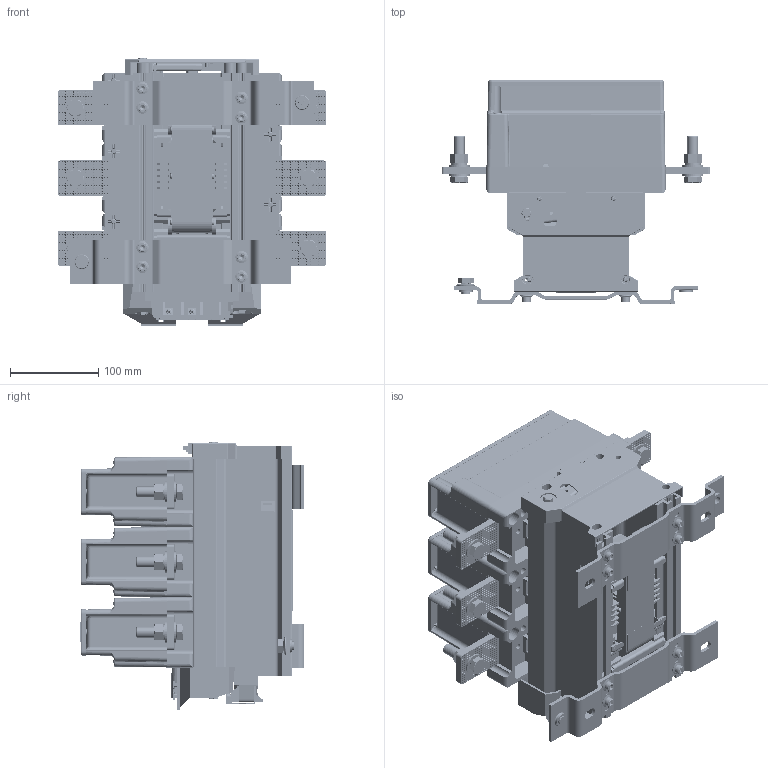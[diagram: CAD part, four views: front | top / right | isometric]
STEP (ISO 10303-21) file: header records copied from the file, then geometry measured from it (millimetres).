
FILE_DESCRIPTION((''),'2;1');
FILE_NAME('NC2-630_ASM','2018-12-03T',('KYCAD026'),(''),'CREO PARAMETRIC BY PTC INC, 2015480','CREO PARAMETRIC BY PTC INC, 2015480','');
FILE_SCHEMA(('CONFIG_CONTROL_DESIGN'));
Products named in the file (77): 8024083_1; 8022039_1; 8022038_1; 89500236_1; 8271022_1; M6X16_GB70_1; 5022043_ASM_1_ASM; 8024081_1; 8574064_1; 8305012_1; 5588038_ASM_7_ASM; 8600379_1; 8600380_1; 8206151_1; 8ZT964025_1; 5612054_ASM_1_ASM; 8211024_1; 8040020_1; 8128035_1; 8282152_1; 8271021A3_1; 5612073_ASM_1_ASM; 5520072FZ_1; 8732046_1; QIBAOXIAN1_1; QIBAOXIAN2_1; 5520074_ASM_1_ASM; 8599012_1; 8315098_1; 8104049_1; 8315097_1; 5599033_ASM_1_ASM; 8574006_1; 5520073_ASM_1_ASM; 5520072_ASM_1_ASM; NC1-35-1_2_1; NC1-35-2_1_1; ZHLD35_ASM_1_ASM_1_ASM; 8315099_1; 5520071_ASM_1_ASM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
Assembly tree (242 placements, depth 7):
  NC2-630_ASM
    2400035_ASM_6_ASM
      5022043_ASM_1_ASM
        8024083_1  x2
        8022039_1
        8022038_1
        89500236_1  x8
        8271022_1  x4
        M6X16_GB70_1  x8
      5588038_ASM_7_ASM  x3
        8024081_1
        8574064_1
        8305012_1
      5612073_ASM_1_ASM
        5612054_ASM_1_ASM
          8600379_1  x81
          8600380_1  x2
          8206151_1  x2
          8ZT964025_1  x6
        8211024_1  x4
        8040020_1  x2
        8128035_1  x4
        8282152_1
        8271021A3_1
      5520071_ASM_1_ASM
        5520072_ASM_1_ASM
          5520072FZ_1
          5520073_ASM_1_ASM
            5520074_ASM_1_ASM
              8732046_1
              QIBAOXIAN1_1
              QIBAOXIAN2_1
            5599033_ASM_1_ASM
              8599012_1
              8315098_1
              8104049_1
              8315097_1
            8574006_1  x2
        ZHLD35_ASM_1_ASM_1_ASM  x2
          NC1-35-1_2_1
          NC1-35-2_1_1
        8315099_1
      LIANGAN_ASM_1_ASM
        8233076_1
        8211012_1
        8941005_1
        89500233_1
        M5X25_GB70_1
        8203028_1
      8211010_1  x2
      5315038_ASM_1_ASM
        8315132630_9
        8233013_1  x2
        8955001_1
      LUODING_M4X20_ASM_1_ASM  x6
        WADIAN7_1
        LUODING3_1
      5315037_ASM_1_ASM
        8315131_1
        8234012__1
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Bounding box: 304 x 254.06 x 303 mm (x, y, z)
Volume: 3660529.9 mm3; surface area: 2363386.4 mm2
Topology: 247 solids, 304 shells, 28482 faces, 73717 edges, 48484 vertices
Faces by surface type: plane 22220, cylinder 4982, cone 610, bspline 290, torus 264, sphere 116
Entity records: 305108 total; most frequent: CARTESIAN_POINT 58592, ORIENTED_EDGE 42058, DIRECTION 40147, EDGE_CURVE 21061, VECTOR 15897, LINE 15897, VERTEX_POINT 13854, AXIS2_PLACEMENT_3D 12125
